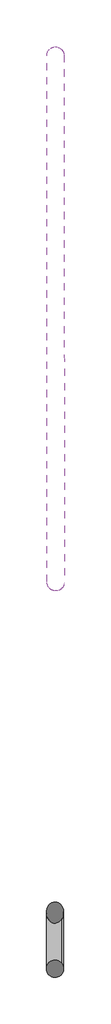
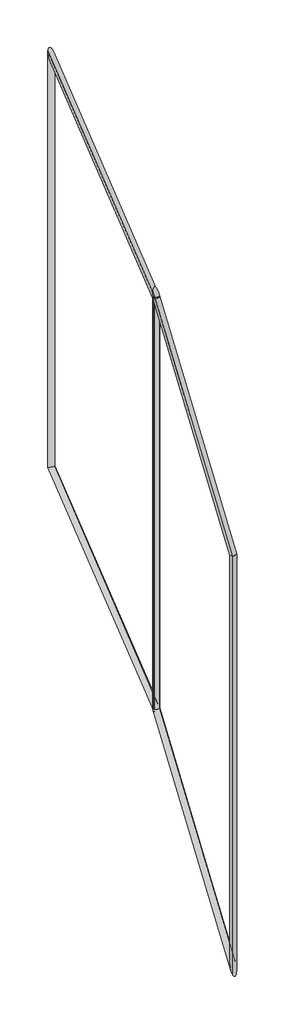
# One storey: 2 proxies.
"""IFC4 building model written with IfcOpenShell, lengths in millimetres."""

from ifc_helpers import new_model, si_unit, origin, place, context, project, spatial, transform, mapped, element, save
from components import generic_models_33cf23df, generic_models_c1897734

model = new_model("IFC4")

# Units and contexts
model_context = context("Model", 3, world=origin())
ifc_project = project(units=[si_unit("LENGTHUNIT", "METRE", prefix="MILLI")], contexts=[model_context])

# Site, building, storey
site = spatial("IfcSite", under=ifc_project)
building = spatial("IfcBuilding", under=site)
storey = spatial("IfcBuildingStorey", under=building, Name="Nível 3", Elevation=8000.0)

# Proxies
placement = place(None, origin())
generic_models_shape = generic_models_33cf23df(model_context)
element("IfcBuildingElementProxy", 1, Name="Família5 : Família5", ObjectType="Família5 : Família5", at=placement, inside=storey, context=model_context, shape_type="MappedRepresentation", body=[
    mapped(generic_models_shape, transform((-2358.9615676, 4452.786916, 10507.2257349), x_axis=(-0.7414038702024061, 0.3817828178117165, 0.551871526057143), y_axis=(0.6710482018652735, 0.42648152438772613, 0.6064716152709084), z_axis=(-0.0038225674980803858, 0.8199727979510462, -0.5723897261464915))),
])
generic_models_2_shape = generic_models_c1897734(model_context)
element("IfcBuildingElementProxy", 2, Name="Família5 : Família5", ObjectType="Família5 : Família5", at=placement, inside=storey, context=model_context, shape_type="MappedRepresentation", body=[
    mapped(generic_models_2_shape, transform((-2358.5822089, 6658.1665908, 12659.4175846), x_axis=(-0.7423344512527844, 0.5212039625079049, 0.4210534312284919), y_axis=(0.6700209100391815, 0.5806276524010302, 0.4625402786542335), z_axis=(-0.003397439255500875, 0.6254741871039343, -0.7802374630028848))),
])

save(model, "model.ifc")
